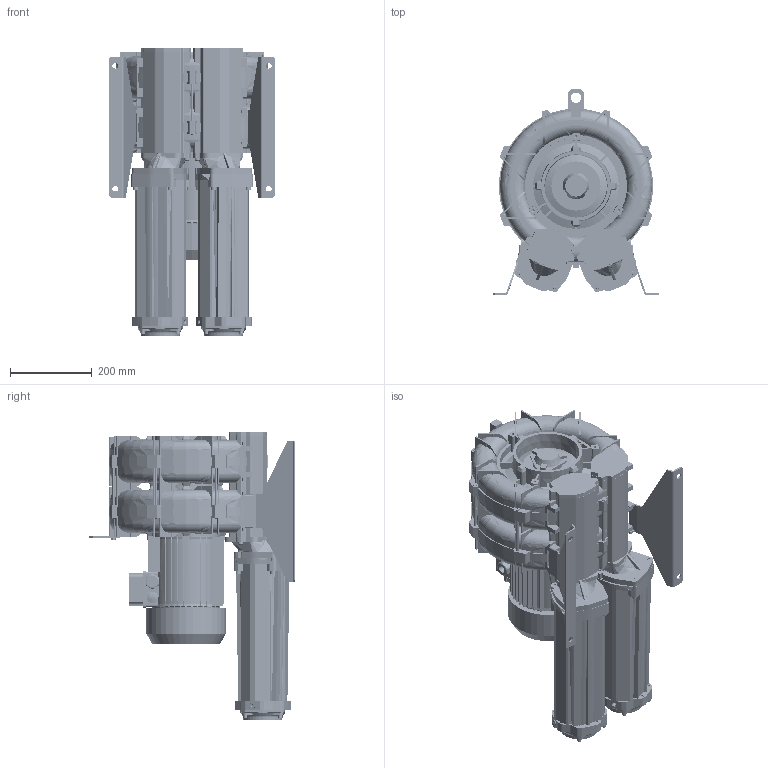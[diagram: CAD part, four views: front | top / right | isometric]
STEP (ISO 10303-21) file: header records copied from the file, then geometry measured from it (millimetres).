
FILE_DESCRIPTION (( 'STEP AP203' ), '1' );
FILE_NAME ('STP-L_e_06_TS_MOR_IE3WR_100_4.0kW-3_25-00.step', '2025-03-03T13:11:04', ( '' ), ( '' ), 'SwSTEP 2.0', 'SolidWorks 2024', '' );
FILE_SCHEMA (( 'CONFIG_CONTROL_DESIGN' ));
Products named in the file (1): STP-L_e_06_TS_MOR_IE3WR_100_4.0kW-3_25-00
Bounding box: 404 x 503.5 x 704.5 mm (x, y, z)
Volume: 35446779 mm3; surface area: 2887808.1 mm2
Topology: 98 solids, 106 shells, 5422 faces, 14659 edges, 9464 vertices
Faces by surface type: plane 2603, cylinder 1409, cone 635, bspline 477, torus 257, sphere 41
Full cylindrical faces by diameter (mm): 4.917 x7, 5 x17, 6 x36, 6.4 x20, 6.5 x5, 6.8 x11, 6.9 x4, 7.5 x4, 8 x12, 8.4 x12, 8.5 x10, 8.566 x2, 8.8 x4, 9 x12, 9.4 x4, 9.5 x4, 9.98 x2, 10 x42, 12 x2, 12.02 x2, 13 x24, 14 x10, 16.5 x2, 18 x2, 20 x1, 21.4 x1, 24 x4, 25 x4, 28 x1, 73 x3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
Entity records: 290427 total; most frequent: CARTESIAN_POINT 161621, ORIENTED_EDGE 27604, DIRECTION 25093, EDGE_CURVE 13802, VERTEX_POINT 9221, AXIS2_PLACEMENT_3D 9022, LINE 7049, VECTOR 7049
